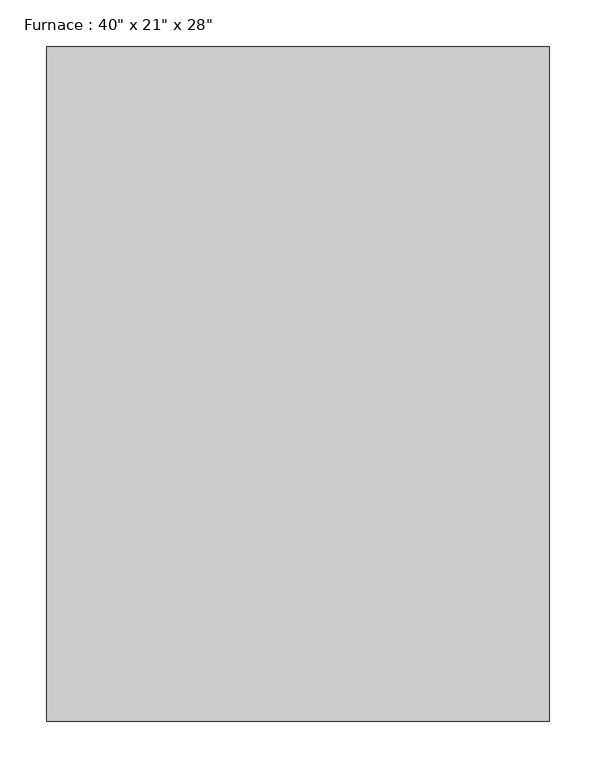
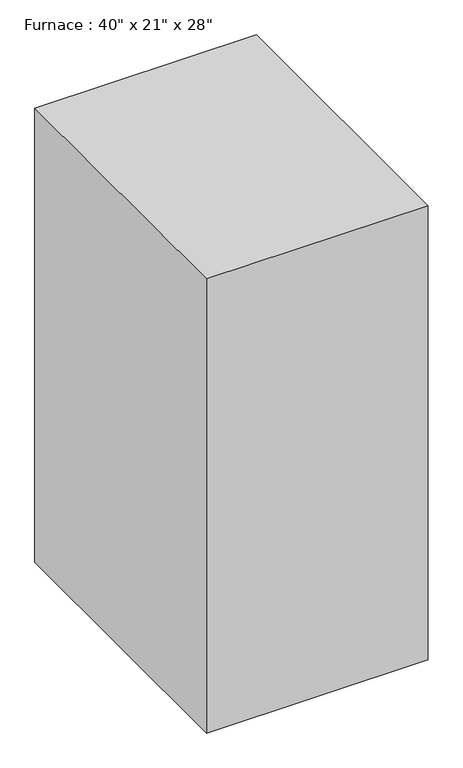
"""IFC4 building model written with IfcOpenShell, lengths in millimetres: proxy geometry."""

from ifc_helpers import new_model, si_unit, origin, origin_with_axes, place, context, project, spatial, polyline, outline, extrude, source, transform, mapped, element, save


def proxy_36a64196(model_context):
    return source(origin(), model_context, "Body", "SweptSolid", [
        extrude(outline(polyline([(269.875, 361.95), (269.875, -361.95), (-269.875, -361.95), (-269.875, 361.95), (269.875, 361.95)])), origin_with_axes(), (0.0, 0.0, 1.0), 1168.4),
    ])


if __name__ == "__main__":
    model = new_model("IFC4")
    model_context = context("Model", 3, world=origin())
    ifc_project = project(units=[si_unit("LENGTHUNIT", "METRE", prefix="MILLI")], contexts=[model_context])
    site = spatial("IfcSite", under=ifc_project)
    building = spatial("IfcBuilding", under=site)
    placement = place(None, origin())
    proxy_shape = proxy_36a64196(model_context)
    element("IfcBuildingElementProxy", 1, Name="Furnace : 40\" x 21\" x 28\"", ObjectType="Furnace : 40\" x 21\" x 28\"", at=placement, inside=building, context=model_context, shape_type="MappedRepresentation", body=[
        mapped(proxy_shape, transform((0.0, 0.0, 0.0), x_axis=(1.0, 0.0, 0.0), y_axis=(0.0, 1.0, 0.0), z_axis=(0.0, 0.0, 1.0))),
    ])
    save(model, "model.ifc")
